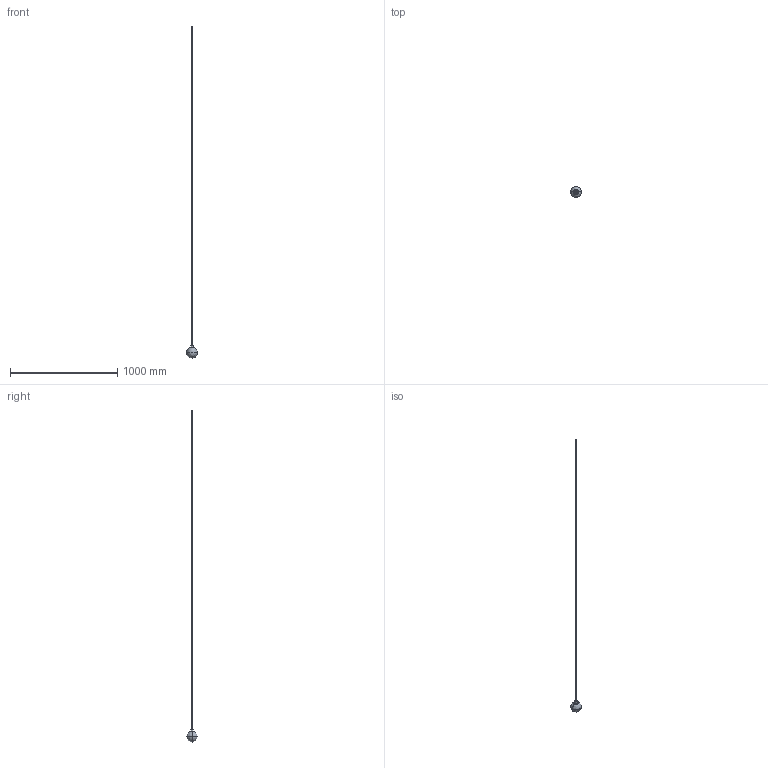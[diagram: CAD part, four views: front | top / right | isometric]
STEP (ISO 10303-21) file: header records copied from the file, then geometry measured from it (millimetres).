
FILE_DESCRIPTION(/* description */ (''),/* implementation_level */ '2;1');
FILE_NAME(/* name */ 'M115__~1',/* time_stamp */ '2024-07-03T09:36:26+02:00',/* author */ (''),/* organization */ (''),/* preprocessor_version */ 'ST-DEVELOPER v16.5',/* originating_system */ '',/* authorisation */ '');
FILE_SCHEMA (('AUTOMOTIVE_DESIGN'));
Length unit declared in the file: millimetre
Products named in the file (1): Document
Bounding box: 100 x 100 x 3096.26 mm (x, y, z)
Volume: 154341.8 mm3; surface area: 169455.3 mm2
Topology: 10 solids, 10 shells, 200 faces, 468 edges, 281 vertices
Faces by surface type: bspline 144, plane 56
Entity records: 10144 total; most frequent: CARTESIAN_POINT 7438, ORIENTED_EDGE 908, EDGE_CURVE 454, VERTEX_POINT 281, EDGE_LOOP 225, ADVANCED_FACE 200, FACE_OUTER_BOUND 200, B_SPLINE_CURVE_WITH_KNOTS 193
